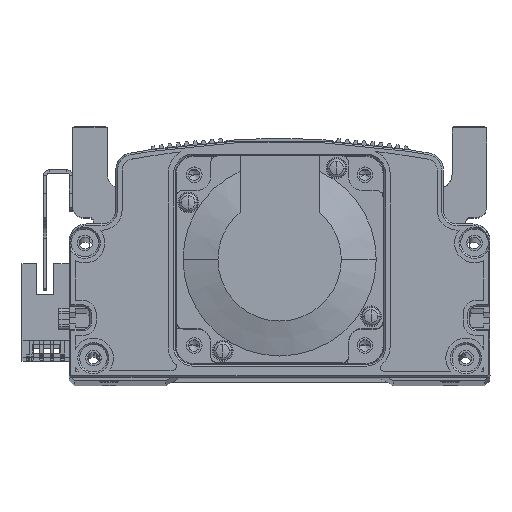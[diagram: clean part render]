
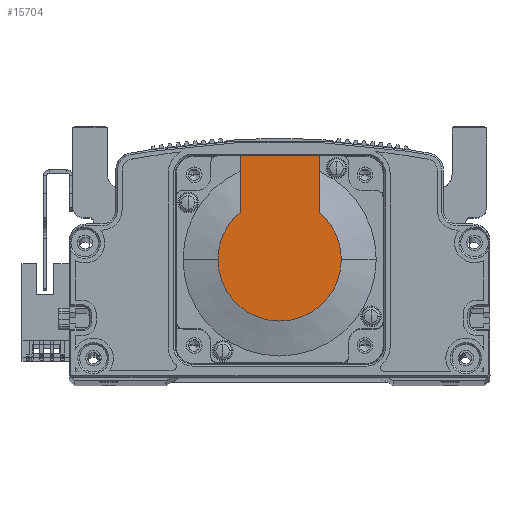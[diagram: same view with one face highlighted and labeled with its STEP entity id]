
A CAD part, top view. The second image highlights one B-rep face of the part: STEP entity #15704.
In plain terms, the highlighted planar face has unit normal (0, 0, 1) as drawn and (-1, 0, 0) by its records, which use the part's own axes.
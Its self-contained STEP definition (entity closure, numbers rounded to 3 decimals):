
#4 = EDGE_CURVE ( 'NONE', #33358, #18951, #29406, .T. ) ;
#182 = VECTOR ( 'NONE', #57581, 1000. ) ;
#897 = PLANE ( 'NONE',  #47544 ) ;
#4876 = CARTESIAN_POINT ( 'NONE',  ( -118.5, 0., 17.881 ) ) ;
#5417 = VECTOR ( 'NONE', #16914, 1000. ) ;
#8032 = CARTESIAN_POINT ( 'NONE',  ( -118.5, 0., 11.45 ) ) ;
#9458 = LINE ( 'NONE', #22070, #26752 ) ;
#11083 = EDGE_CURVE ( 'NONE', #18951, #44193, #42567, .T. ) ;
#15502 = EDGE_CURVE ( 'NONE', #44193, #26454, #33445, .T. ) ;
#15704 = ADVANCED_FACE ( 'NONE', ( #35137 ), #897, .T. ) ;
#16914 = DIRECTION ( 'NONE',  ( 0., -1., 0. ) ) ;
#18951 = VERTEX_POINT ( 'NONE', #39598 ) ;
#19284 = VERTEX_POINT ( 'NONE', #42665 ) ;
#20194 = AXIS2_PLACEMENT_3D ( 'NONE', #55393, #22474, #60943 ) ;
#20948 = DIRECTION ( 'NONE',  ( 0., 0., -1. ) ) ;
#22070 = CARTESIAN_POINT ( 'NONE',  ( -118.5, 30., 25. ) ) ;
#22112 = CARTESIAN_POINT ( 'NONE',  ( -118.5, 13.735, -11.45 ) ) ;
#22474 = DIRECTION ( 'NONE',  ( -1., 0., 0. ) ) ;
#24267 = AXIS2_PLACEMENT_3D ( 'NONE', #26620, #42476, #59058 ) ;
#26454 = VERTEX_POINT ( 'NONE', #34098 ) ;
#26620 = CARTESIAN_POINT ( 'NONE',  ( -118.5, 0., 0. ) ) ;
#26752 = VECTOR ( 'NONE', #32678, 1000. ) ;
#28995 = EDGE_CURVE ( 'NONE', #19284, #26454, #58762, .T. ) ;
#29406 = CIRCLE ( 'NONE', #24267, 17.881 ) ;
#32678 = DIRECTION ( 'NONE',  ( 0., 0., 1. ) ) ;
#32982 = ORIENTED_EDGE ( 'NONE', *, *, #4, .T. ) ;
#33358 = VERTEX_POINT ( 'NONE', #22112 ) ;
#33445 = CIRCLE ( 'NONE', #43888, 17.881 ) ;
#34098 = CARTESIAN_POINT ( 'NONE',  ( -118.5, 13.735, 11.45 ) ) ;
#34740 = LINE ( 'NONE', #49854, #5417 ) ;
#35137 = FACE_OUTER_BOUND ( 'NONE', #42778, .T. ) ;
#38528 = CARTESIAN_POINT ( 'NONE',  ( -118.5, 30., -11.45 ) ) ;
#39598 = CARTESIAN_POINT ( 'NONE',  ( -118.5, 0., -17.881 ) ) ;
#42476 = DIRECTION ( 'NONE',  ( -1., 0., 0. ) ) ;
#42513 = ORIENTED_EDGE ( 'NONE', *, *, #56556, .F. ) ;
#42567 = CIRCLE ( 'NONE', #20194, 17.881 ) ;
#42665 = CARTESIAN_POINT ( 'NONE',  ( -118.5, 30., 11.45 ) ) ;
#42778 = EDGE_LOOP ( 'NONE', ( #63575, #32982, #50122, #70007, #64217, #42513 ) ) ;
#43888 = AXIS2_PLACEMENT_3D ( 'NONE', #65411, #48354, #20948 ) ;
#44193 = VERTEX_POINT ( 'NONE', #4876 ) ;
#46899 = DIRECTION ( 'NONE',  ( -1., 0., 0. ) ) ;
#47544 = AXIS2_PLACEMENT_3D ( 'NONE', #66840, #46899, #57932 ) ;
#48354 = DIRECTION ( 'NONE',  ( -1., 0., 0. ) ) ;
#49311 = VERTEX_POINT ( 'NONE', #38528 ) ;
#49854 = CARTESIAN_POINT ( 'NONE',  ( -118.5, -8.941, -11.45 ) ) ;
#50122 = ORIENTED_EDGE ( 'NONE', *, *, #11083, .T. ) ;
#55393 = CARTESIAN_POINT ( 'NONE',  ( -118.5, 0., 0. ) ) ;
#56556 = EDGE_CURVE ( 'NONE', #49311, #19284, #9458, .T. ) ;
#57581 = DIRECTION ( 'NONE',  ( 0., -1., 0. ) ) ;
#57932 = DIRECTION ( 'NONE',  ( 0., 0., 1. ) ) ;
#58762 = LINE ( 'NONE', #8032, #182 ) ;
#59058 = DIRECTION ( 'NONE',  ( 0., 0., -1. ) ) ;
#60794 = EDGE_CURVE ( 'NONE', #49311, #33358, #34740, .T. ) ;
#60943 = DIRECTION ( 'NONE',  ( 0., 0., -1. ) ) ;
#63575 = ORIENTED_EDGE ( 'NONE', *, *, #60794, .T. ) ;
#64217 = ORIENTED_EDGE ( 'NONE', *, *, #28995, .F. ) ;
#65411 = CARTESIAN_POINT ( 'NONE',  ( -118.5, 0., 0. ) ) ;
#66840 = CARTESIAN_POINT ( 'NONE',  ( -118.5, -8.941, 0. ) ) ;
#70007 = ORIENTED_EDGE ( 'NONE', *, *, #15502, .T. ) ;
